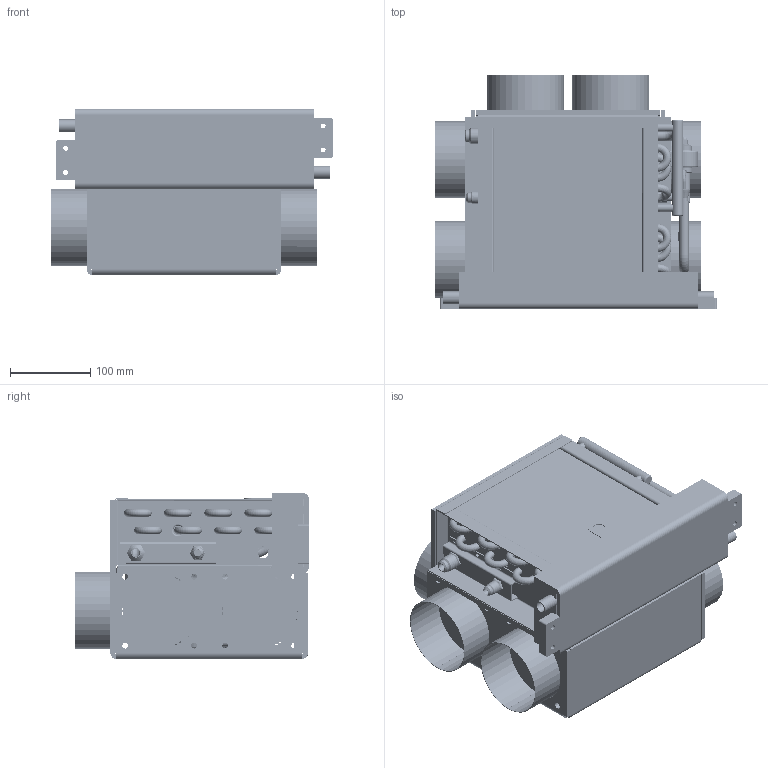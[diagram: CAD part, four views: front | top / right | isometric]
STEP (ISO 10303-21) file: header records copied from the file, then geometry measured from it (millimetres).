
FILE_DESCRIPTION(/* description */ ('STEP AP214'),/* implementation_level */ '2;1');
FILE_NAME(/* name */ 'D:\QSync\Disegni\01_Prodotti\MRMAXI12i\04_CAD per esportazione\MRMAXI12i.stp',/* time_stamp */ '2022-04-06T11:50:24+02:00',/* author */ ('CAD 1'),/* organization */ (''),/* preprocessor_version */ 'ST-DEVELOPER v18.1',/* originating_system */ 'Autodesk Inventor 2021',/* authorisation */ '');
FILE_SCHEMA (('AUTOMOTIVE_DESIGN { 1 0 10303 214 3 1 1 }'));
Products named in the file (38): MRMAXI12; MRM12_020; MRM12_032; MRM12_055; MRM12_062; MRS_030; KW92_000; Pacco_KW92; KW92.B_000; KW92.A_000; imbocco_18; KW92.G_000; KW92.L_000; 2010_00_2010.01; KW92.I_000; 1020_02; KW92.I_000_1; KW92.I_000_CAPILL; Forcina_25_h18_15; Corpo valvola; Valvola E2V; Bobina; Cappuccio; Connettore; Hydro_Connection_3_8; Hydro_Connection_1_2; 115908_178086 gr18; Pressacavo PG9; Canalina; MRS_099; MRS_098; MRS_081; MRM12_005; MRM12_011; MRM12_021; MRM12_030; MRM12_050; FONO_060
Assembly tree (75 placements, depth 4):
  MRMAXI12
    MRM12_020  x2
    MRM12_032
    MRM12_055
    MRM12_062
    MRS_030  x2
    KW92_000
      Pacco_KW92
      KW92.B_000
      KW92.A_000
      imbocco_18  x16
      Forcina_25_h18_15  x8
      2010_00_2010.01  x6
      KW92.G_000
      KW92.L_000
      KW92.I_000
        1020_02
        KW92.I_000_1
        KW92.I_000_CAPILL  x2
    Corpo valvola
    Valvola E2V
      Bobina
      Cappuccio
      Connettore
    Hydro_Connection_3_8
    Hydro_Connection_1_2
    115908_178086 gr18
    Pressacavo PG9
    Canalina
    MRS_099  x6
      MRS_098
      MRS_081
    MRM12_005
    MRM12_011
    MRM12_021  x2
    MRM12_030  x2
    MRM12_050  x2
    FONO_060
Bounding box: 350.96 x 291.5 x 206.78 mm (x, y, z)
Volume: 4432355.4 mm3; surface area: 2085611.2 mm2
Topology: 76 solids, 84 shells, 7312 faces, 19495 edges, 12766 vertices
Faces by surface type: plane 5169, cylinder 879, bspline 607, cone 373, torus 245, sphere 39
Full cylindrical faces by diameter (mm): 1 x1, 2 x3, 3 x3, 3.25 x3, 3.3 x8, 4 x4, 4.2 x5, 4.5 x25, 5 x9, 5.2 x5, 5.721 x4, 5.8 x6, 6 x17, 6.5 x1, 7 x24, 7.72 x2, 8 x17, 8.22 x16, 8.5 x1, 8.72 x16, 9 x36, 9.144 x1, 9.18 x12, 9.32 x24, 9.52 x34, 9.8 x2, 10 x15, 10.2 x5, 10.692 x1, 11 x30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
Entity records: 241749 total; most frequent: CARTESIAN_POINT 72557, ORIENTED_EDGE 35980, DIRECTION 32880, EDGE_CURVE 17990, LINE 12594, VECTOR 12594, VERTEX_POINT 11767, AXIS2_PLACEMENT_3D 10143
